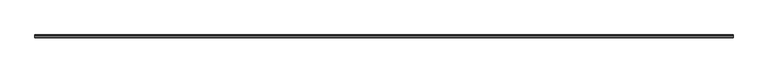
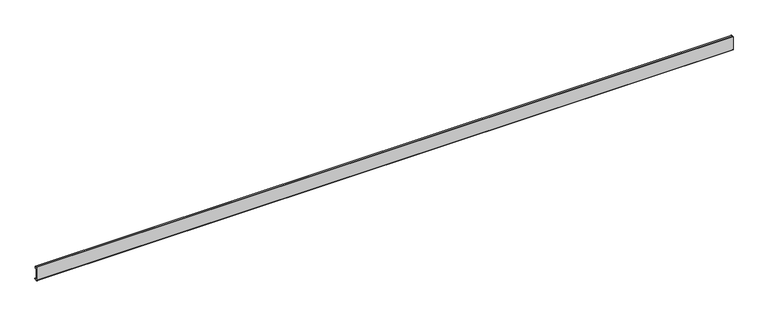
"""IFC4 building model written with IfcOpenShell, lengths in millimetres: proxy geometry, Weiku - Montante - Capa de folha 02.3.02.406 : Weiku - Montante - Capa de folha 02.3.02.406."""

from ifc_helpers import new_model, si_unit, point, frame, frame_2d, origin, place, context, project, spatial, polyline, circle_curve, trimmed, segment, composite_curve, outline, extrude, source, transform, mapped, element, save


def generic_models_8fcb6c22(model_context):
    return source(origin(), model_context, "Body", "SweptSolid", [
        extrude(outline(composite_curve([segment(polyline([(4.6421508, 2.2715508), (5.3603515, 1.056104)]), True, "CONTINUOUS"), segment(trimmed(circle_curve(frame_2d((4.7576991, 0.7)), 0.7), [point((5.3603515, 1.056104))], [point((4.7576991, 0.0))], False, "CARTESIAN"), True, "CONTINUOUS"), segment(polyline([(4.7576991, 0.0), (0.5, 0.0)]), True, "CONTINUOUS"), segment(trimmed(circle_curve(frame_2d((0.5, 0.5)), 0.5), [point((0.5, 0.0))], [point((0.0, 0.5))], False, "CARTESIAN"), True, "CONTINUOUS"), segment(polyline([(0.0, 0.5), (0.0, 26.2)]), True, "CONTINUOUS"), segment(trimmed(circle_curve(frame_2d((0.5, 26.2)), 0.5), [point((0.0, 26.2))], [point((0.5, 26.7))], False, "CARTESIAN"), True, "CONTINUOUS"), segment(polyline([(0.5, 26.7), (3.78, 26.7)]), True, "CONTINUOUS"), segment(trimmed(circle_curve(frame_2d((3.78, 26.2)), 0.5), [point((3.78, 26.7))], [point((4.28, 26.2))], False, "CARTESIAN"), True, "CONTINUOUS"), segment(polyline([(4.28, 26.2), (4.28, 22.3396), (3.3063, 22.3396), (3.3063, 25.684), (1.6933, 25.684), (1.6933, 1.016), (3.3866, 1.016), (4.6421508, 2.2715508)]), True, "CONTINUOUS")], self_intersect=False)), frame((-655.6833333, 0.0, 0.0), z_axis=(1.0, 0.0, 0.0), x_axis=(0.0, 1.0, 0.0)), (0.0, 0.0, 1.0), 1311.3666667),
    ])


if __name__ == "__main__":
    model = new_model("IFC4")
    model_context = context("Model", 3, world=origin())
    ifc_project = project(units=[si_unit("LENGTHUNIT", "METRE", prefix="MILLI")], contexts=[model_context])
    site = spatial("IfcSite", under=ifc_project)
    building = spatial("IfcBuilding", under=site)
    placement = place(None, origin())
    generic_models_shape = generic_models_8fcb6c22(model_context)
    element("IfcBuildingElementProxy", 1, Name="Weiku - Montante - Capa de folha 02.3.02.406 : Weiku - Montante - Capa de folha 02.3.02.406", ObjectType="Weiku - Montante - Capa de folha 02.3.02.406 : Weiku - Montante - Capa de folha 02.3.02.406", at=placement, inside=building, context=model_context, shape_type="MappedRepresentation", body=[
        mapped(generic_models_shape, transform((0.0, 0.0, 0.0), x_axis=(1.0, 0.0, 0.0), y_axis=(0.0, 1.0, 0.0), z_axis=(0.0, 0.0, 1.0))),
    ])
    save(model, "model.ifc")
